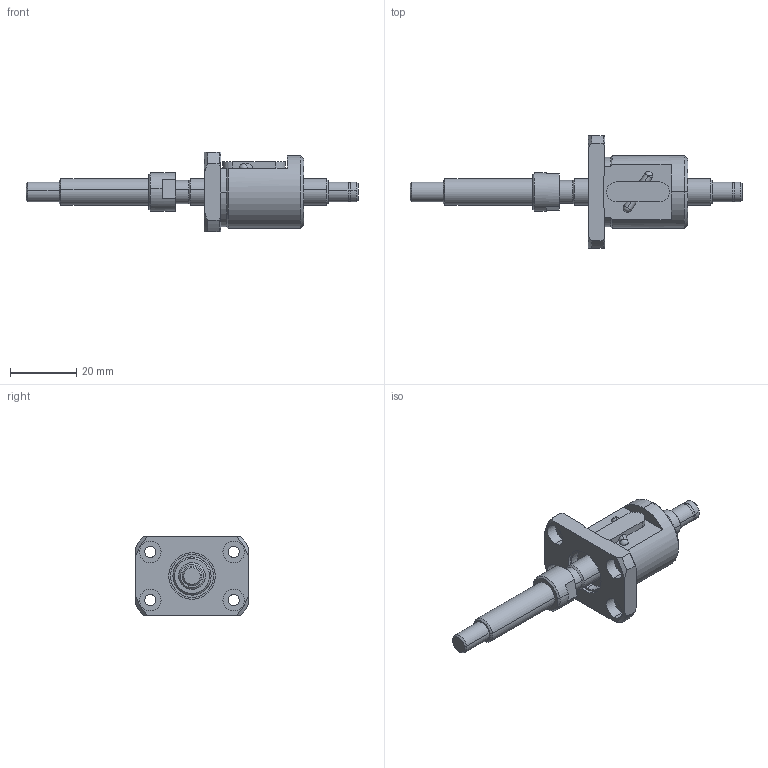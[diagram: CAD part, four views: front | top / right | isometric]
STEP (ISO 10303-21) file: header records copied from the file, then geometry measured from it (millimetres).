
FILE_DESCRIPTION (( 'STEP AP203' ), '1' );
FILE_NAME ('TS0804 assy_20160716.STEP', '2016-07-16T04:47:19', ( 'user' ), ( 'Hewlett-Packard Company' ), 'SwSTEP 2.0', 'SolidWorks 2014', '' );
FILE_SCHEMA (( 'CONFIG_CONTROL_DESIGN' ));
Length unit declared in the file: millimetre
Products named in the file (3): T0804 screw; TS0804 assy_20160716; TS0804 nut
Assembly tree (2 placements, depth 2):
  TS0804 assy_20160716
    T0804 screw
    TS0804 nut
Bounding box: 100 x 34 x 24 mm (x, y, z)
Volume: 14980.2 mm3; surface area: 7713.7 mm2
Topology: 2 solids, 2 shells, 123 faces, 306 edges, 197 vertices
Faces by surface type: cylinder 58, plane 34, cone 28, sphere 3
Entity records: 4065 total; most frequent: CARTESIAN_POINT 747, DIRECTION 686, ORIENTED_EDGE 604, EDGE_CURVE 302, AXIS2_PLACEMENT_3D 286, VERTEX_POINT 195, CIRCLE 158, EDGE_LOOP 145
